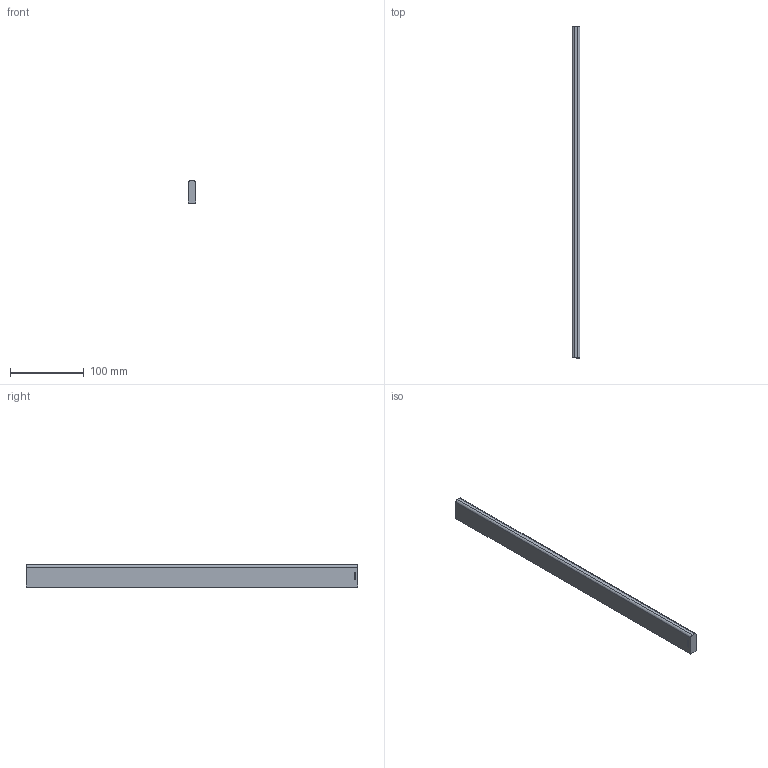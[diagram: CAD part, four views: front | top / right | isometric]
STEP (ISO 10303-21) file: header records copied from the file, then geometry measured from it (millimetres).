
FILE_DESCRIPTION (( 'STEP AP214' ), '1' );
FILE_NAME ('_Seitenreling_S760605500_RL450,5.step', '2010-09-06T14:51:27', ( 'grass' ), ( '' ), 'SwSTEP 2.0', 'SolidWorks 2010', '' );
FILE_SCHEMA (( 'AUTOMOTIVE_DESIGN' ));
Length unit declared in the file: millimetre
Products named in the file (1): _Seitenreling_S760605500_RL450,5
Bounding box: 10.5 x 450.5 x 30 mm (x, y, z)
Volume: 139928.6 mm3; surface area: 36164.8 mm2
Topology: 1 solids, 1 shells, 12 faces, 30 edges, 20 vertices
Faces by surface type: plane 8, cylinder 4
Entity records: 400 total; most frequent: DIRECTION 64, CARTESIAN_POINT 63, ORIENTED_EDGE 60, EDGE_CURVE 30, VECTOR 22, LINE 22, AXIS2_PLACEMENT_3D 21, VERTEX_POINT 20
